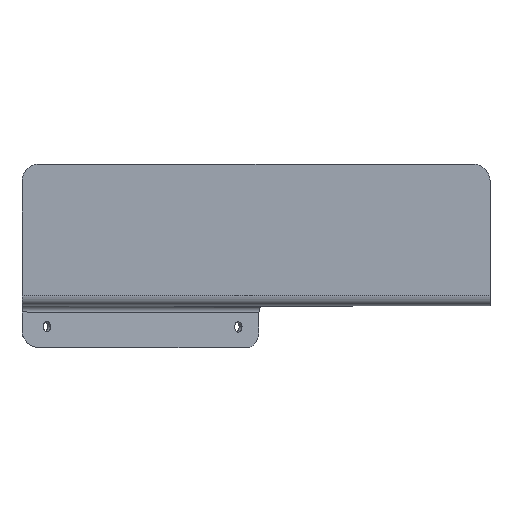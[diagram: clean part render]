
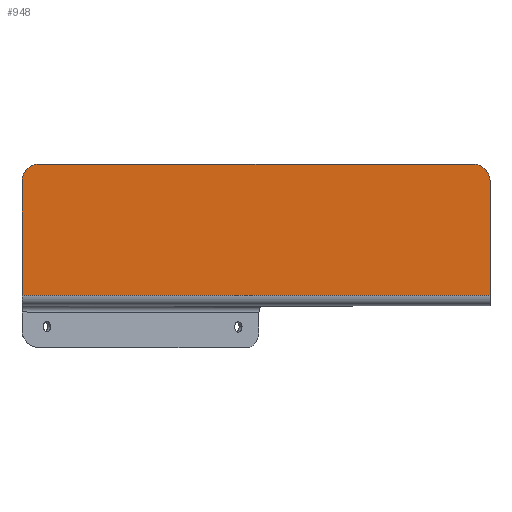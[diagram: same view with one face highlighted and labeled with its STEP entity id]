
A CAD part, top view. The second image highlights one B-rep face of the part: STEP entity #948.
In plain terms, the highlighted planar face has unit normal (0, 0, 1).
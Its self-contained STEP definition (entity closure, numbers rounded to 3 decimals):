
#49=DIRECTION('',(0.,1.,0.));
#50=VECTOR('',#49,55.);
#51=CARTESIAN_POINT('',(-112.48,3.,127.279));
#52=LINE('',#51,#50);
#269=DIRECTION('',(0.,-1.,0.));
#270=VECTOR('',#269,55.);
#271=CARTESIAN_POINT('',(112.48,58.,127.279));
#272=LINE('',#271,#270);
#273=CARTESIAN_POINT('',(-104.48,58.,127.279));
#274=DIRECTION('',(0.,0.,-1.));
#275=DIRECTION('',(-1.,0.,0.));
#276=AXIS2_PLACEMENT_3D('',#273,#274,#275);
#278=CARTESIAN_POINT('',(104.48,58.,127.279));
#279=DIRECTION('',(0.,0.,-1.));
#280=DIRECTION('',(0.,1.,0.));
#281=AXIS2_PLACEMENT_3D('',#278,#279,#280);
#283=DIRECTION('',(1.,0.,0.));
#284=VECTOR('',#283,224.96);
#285=CARTESIAN_POINT('',(-112.48,3.,127.279));
#286=LINE('',#285,#284);
#327=DIRECTION('',(-1.,0.,0.));
#328=VECTOR('',#327,208.96);
#329=CARTESIAN_POINT('',(104.48,66.,127.279));
#330=LINE('',#329,#328);
#460=CARTESIAN_POINT('',(-112.48,3.,127.279));
#462=VERTEX_POINT('',#460);
#474=CARTESIAN_POINT('',(112.48,3.,127.279));
#476=VERTEX_POINT('',#474);
#485=CARTESIAN_POINT('',(-112.48,58.,127.279));
#486=VERTEX_POINT('',#485);
#487=CARTESIAN_POINT('',(-104.48,66.,127.279));
#488=VERTEX_POINT('',#487);
#489=CARTESIAN_POINT('',(104.48,66.,127.279));
#490=CARTESIAN_POINT('',(112.48,58.,127.279));
#491=VERTEX_POINT('',#489);
#492=VERTEX_POINT('',#490);
#933=CARTESIAN_POINT('',(127.279,0.,127.279));
#934=DIRECTION('',(0.,0.,-1.));
#935=DIRECTION('',(-1.,0.,0.));
#936=AXIS2_PLACEMENT_3D('',#933,#934,#935);
#937=PLANE('',#936);
#939=ORIENTED_EDGE('',*,*,#938,.T.);
#941=ORIENTED_EDGE('',*,*,#940,.F.);
#942=ORIENTED_EDGE('',*,*,#923,.T.);
#943=ORIENTED_EDGE('',*,*,#913,.T.);
#944=ORIENTED_EDGE('',*,*,#893,.F.);
#945=ORIENTED_EDGE('',*,*,#640,.T.);
#946=EDGE_LOOP('',(#939,#941,#942,#943,#944,#945));
#947=FACE_OUTER_BOUND('',#946,.F.);
#948=ADVANCED_FACE('',(#947),#937,.F.);
#277=CIRCLE('',#276,8.);
#282=CIRCLE('',#281,8.);
#640=EDGE_CURVE('',#462,#486,#52,.T.);
#893=EDGE_CURVE('',#462,#476,#286,.T.);
#913=EDGE_CURVE('',#492,#476,#272,.T.);
#923=EDGE_CURVE('',#491,#492,#282,.T.);
#938=EDGE_CURVE('',#486,#488,#277,.T.);
#940=EDGE_CURVE('',#491,#488,#330,.T.);
